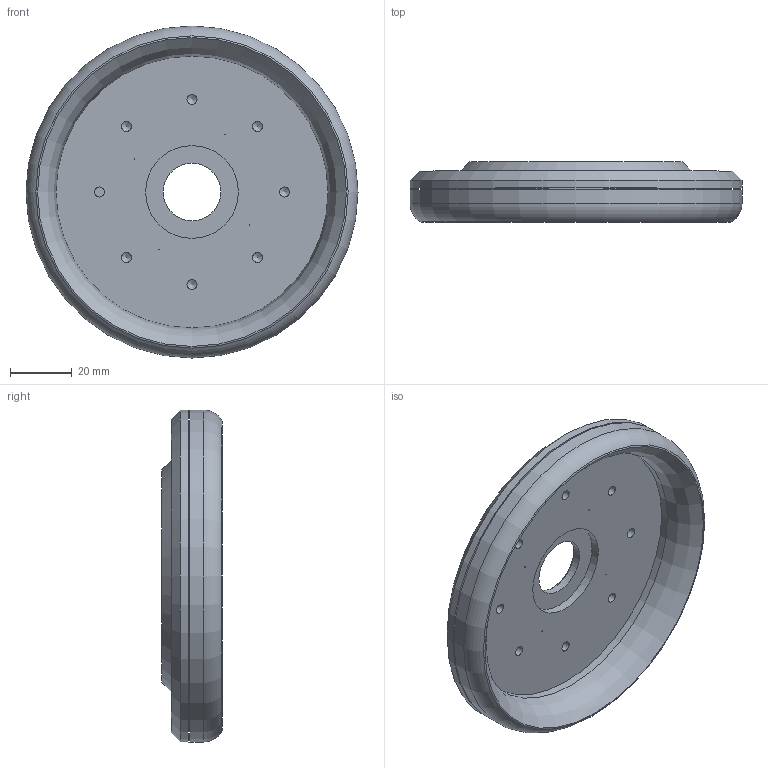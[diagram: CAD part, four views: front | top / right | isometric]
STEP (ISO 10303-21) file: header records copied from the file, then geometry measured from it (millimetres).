
FILE_DESCRIPTION (( 'STEP AP214' ), '1' );
FILE_NAME ('10FF.110.001.15.STEP', '2026-03-26T18:11:29', ( '' ), ( '' ), 'SwSTEP 2.0', 'SolidWorks 2025', '' );
FILE_SCHEMA (( 'AUTOMOTIVE_DESIGN' ));
Length unit declared in the file: millimetre
Products named in the file (1): 10FF.110.001.15
Bounding box: 107.5 x 19.5 x 107.5 mm (x, y, z)
Volume: 68758.3 mm3; surface area: 29612.4 mm2
Topology: 1 solids, 1 shells, 46 faces, 115 edges, 76 vertices
Faces by surface type: cone 18, cylinder 18, plane 7, torus 3
Full cylindrical faces by diameter (mm): 3.242 x8, 4 x4, 18.631 x1, 30 x1, 88.088 x1, 95.3 x1, 107.5 x2
Entity records: 1007 total; most frequent: DIRECTION 194, CARTESIAN_POINT 147, ORIENTED_EDGE 100, EDGE_LOOP 100, AXIS2_PLACEMENT_3D 97, FACE_OUTER_BOUND 67, EDGE_CURVE 50, CIRCLE 50
